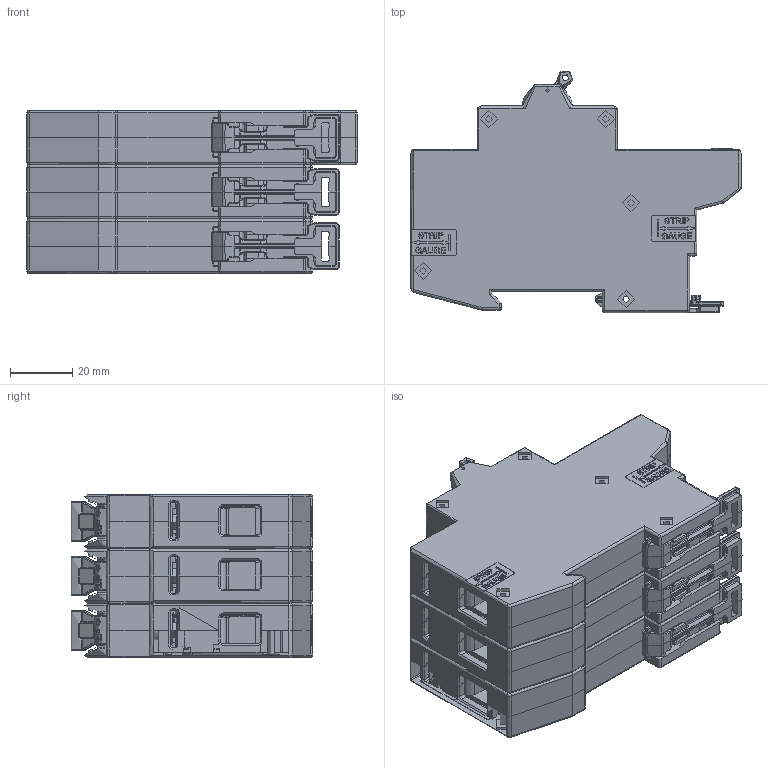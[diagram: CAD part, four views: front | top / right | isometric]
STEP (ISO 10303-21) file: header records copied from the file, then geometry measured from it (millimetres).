
FILE_DESCRIPTION(/* description */ (''),/* implementation_level */ '2;1');
FILE_NAME(/* name */ 'C:\Users\binnendijk\Desktop\GR_3p_with_aux new.stp',/* time_stamp */ '2017-04-04T11:46:00+02:00',/* author */ ('NBinnendijk'),/* organization */ (''),/* preprocessor_version */ 'ST-DEVELOPER v15.2',/* originating_system */ 'Autodesk Inventor 2014',/* authorisation */ '');
FILE_SCHEMA (('AUTOMOTIVE_DESIGN { 1 0 10303 214 3 1 1 }'));
Products named in the file (1): GR_3p_with_aux
Bounding box: 106.38 x 77.77 x 52.43 mm (x, y, z)
Topology: 3 solids, 158 shells, 5966 faces, 19645 edges, 13562 vertices
Faces by surface type: plane 3504, cylinder 1685, bspline 301, torus 269, cone 114, sphere 93
Full cylindrical faces by diameter (mm): 1.118 x2, 1.397 x5, 1.651 x3, 1.676 x3, 1.981 x2, 2.235 x3, 2.337 x23, 2.362 x6, 2.388 x3, 2.413 x3, 2.769 x3, 3.175 x6, 3.2 x3, 3.81 x3, 4.42 x6, 4.826 x6, 5.334 x3, 5.588 x25, 6.198 x3, 7.112 x3, 9.473 x3
Entity records: 244355 total; most frequent: CARTESIAN_POINT 76546, ORIENTED_EDGE 33526, DIRECTION 33262, EDGE_CURVE 19397, LINE 13954, VECTOR 13954, VERTEX_POINT 13507, AXIS2_PLACEMENT_3D 9654
